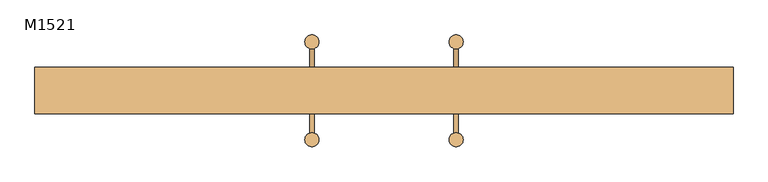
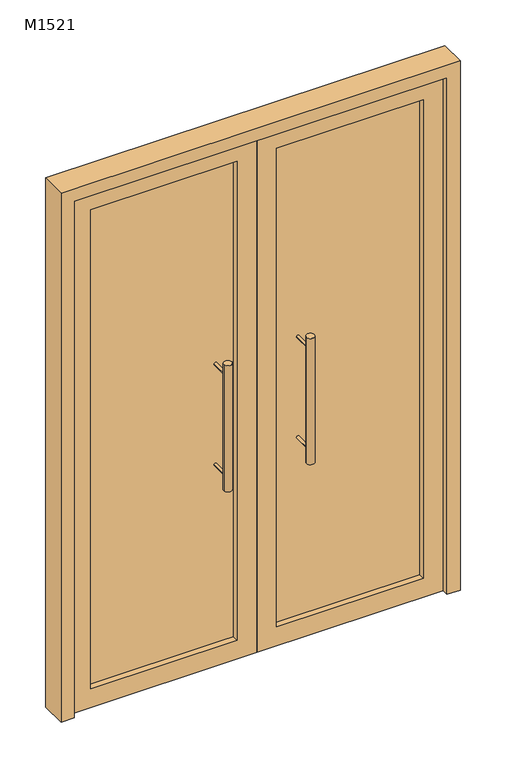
"""IFC4 building model written with IfcOpenShell, lengths in millimetres: door geometry, 双面嵌板玻璃门 : M1521."""

from ifc_helpers import new_model, si_unit, point, frame, frame_2d, origin, place, context, project, spatial, polyline, circle_curve, trimmed, segment, composite_curve, outline, extrude, source, transform, mapped, element, save


def m1521_b0fe12bd(model_context):
    return source(origin(), model_context, "Body", "SweptSolid", [
        extrude(outline(composite_curve([segment(trimmed(circle_curve(frame_2d((155.0, 105.0)), 15.0), [point((140.0, 105.0))], [point((170.0, 105.0))], False, "CARTESIAN"), True, "CONTINUOUS"), segment(trimmed(circle_curve(frame_2d((155.0, 105.0)), 15.0), [point((170.0, 105.0))], [point((140.0, 105.0))], False, "CARTESIAN"), True, "CONTINUOUS")], self_intersect=False)), frame((0.0, 0.0, 750.0), z_axis=(0.0, 0.0, 1.0), x_axis=(1.0, 0.0, 0.0)), (0.0, 0.0, 1.0), 500.0),
        extrude(outline(composite_curve([segment(trimmed(circle_curve(frame_2d((1200.0, 155.0)), 5.0), [point((1200.0, 150.0))], [point((1200.0, 160.0))], False, "CARTESIAN"), True, "CONTINUOUS"), segment(trimmed(circle_curve(frame_2d((1200.0, 155.0)), 5.0), [point((1200.0, 160.0))], [point((1200.0, 150.0))], False, "CARTESIAN"), True, "CONTINUOUS")], self_intersect=False)), frame((0.0, 25.0, 0.0), z_axis=(0.0, 1.0, 0.0), x_axis=(0.0, 0.0, 1.0)), (0.0, 0.0, 1.0), 80.0),
        extrude(outline(composite_curve([segment(trimmed(circle_curve(frame_2d((800.0, 155.0)), 5.0), [point((800.0, 150.0))], [point((800.0, 160.0))], False, "CARTESIAN"), True, "CONTINUOUS"), segment(trimmed(circle_curve(frame_2d((800.0, 155.0)), 5.0), [point((800.0, 160.0))], [point((800.0, 150.0))], False, "CARTESIAN"), True, "CONTINUOUS")], self_intersect=False)), frame((0.0, 25.0, 0.0), z_axis=(0.0, 1.0, 0.0), x_axis=(0.0, 0.0, 1.0)), (0.0, 0.0, 1.0), 80.0),
        extrude(outline(composite_curve([segment(trimmed(circle_curve(frame_2d((1200.0, 155.0)), 5.0), [point((1200.0, 150.0))], [point((1200.0, 160.0))], False, "CARTESIAN"), True, "CONTINUOUS"), segment(trimmed(circle_curve(frame_2d((1200.0, 155.0)), 5.0), [point((1200.0, 160.0))], [point((1200.0, 150.0))], False, "CARTESIAN"), True, "CONTINUOUS")], self_intersect=False)), frame((0.0, -105.0, 0.0), z_axis=(0.0, 1.0, 0.0), x_axis=(0.0, 0.0, 1.0)), (0.0, 0.0, 1.0), 80.0),
        extrude(outline(composite_curve([segment(trimmed(circle_curve(frame_2d((800.0, 155.0)), 5.0), [point((800.0, 150.0))], [point((800.0, 160.0))], False, "CARTESIAN"), True, "CONTINUOUS"), segment(trimmed(circle_curve(frame_2d((800.0, 155.0)), 5.0), [point((800.0, 160.0))], [point((800.0, 150.0))], False, "CARTESIAN"), True, "CONTINUOUS")], self_intersect=False)), frame((0.0, -105.0, 0.0), z_axis=(0.0, 1.0, 0.0), x_axis=(0.0, 0.0, 1.0)), (0.0, 0.0, 1.0), 80.0),
        extrude(outline(composite_curve([segment(trimmed(circle_curve(frame_2d((155.0, -105.0)), 15.0), [point((140.0, -105.0))], [point((170.0, -105.0))], False, "CARTESIAN"), True, "CONTINUOUS"), segment(trimmed(circle_curve(frame_2d((155.0, -105.0)), 15.0), [point((170.0, -105.0))], [point((140.0, -105.0))], False, "CARTESIAN"), True, "CONTINUOUS")], self_intersect=False)), frame((0.0, 0.0, 750.0), z_axis=(0.0, 0.0, 1.0), x_axis=(1.0, 0.0, 0.0)), (0.0, 0.0, 1.0), 500.0),
        extrude(outline(composite_curve([segment(trimmed(circle_curve(frame_2d((-155.0, 105.0)), 15.0), [point((-170.0, 105.0))], [point((-140.0, 105.0))], False, "CARTESIAN"), True, "CONTINUOUS"), segment(trimmed(circle_curve(frame_2d((-155.0, 105.0)), 15.0), [point((-140.0, 105.0))], [point((-170.0, 105.0))], False, "CARTESIAN"), True, "CONTINUOUS")], self_intersect=False)), frame((0.0, 0.0, 750.0), z_axis=(0.0, 0.0, 1.0), x_axis=(1.0, 0.0, 0.0)), (0.0, 0.0, 1.0), 500.0),
        extrude(outline(composite_curve([segment(trimmed(circle_curve(frame_2d((1200.0, -155.0)), 5.0), [point((1200.0, -160.0))], [point((1200.0, -150.0))], False, "CARTESIAN"), True, "CONTINUOUS"), segment(trimmed(circle_curve(frame_2d((1200.0, -155.0)), 5.0), [point((1200.0, -150.0))], [point((1200.0, -160.0))], False, "CARTESIAN"), True, "CONTINUOUS")], self_intersect=False)), frame((0.0, 25.0, 0.0), z_axis=(0.0, 1.0, 0.0), x_axis=(0.0, 0.0, 1.0)), (0.0, 0.0, 1.0), 80.0),
        extrude(outline(composite_curve([segment(trimmed(circle_curve(frame_2d((800.0, -155.0)), 5.0), [point((800.0, -160.0))], [point((800.0, -150.0))], False, "CARTESIAN"), True, "CONTINUOUS"), segment(trimmed(circle_curve(frame_2d((800.0, -155.0)), 5.0), [point((800.0, -150.0))], [point((800.0, -160.0))], False, "CARTESIAN"), True, "CONTINUOUS")], self_intersect=False)), frame((0.0, 25.0, 0.0), z_axis=(0.0, 1.0, 0.0), x_axis=(0.0, 0.0, 1.0)), (0.0, 0.0, 1.0), 80.0),
        extrude(outline(composite_curve([segment(trimmed(circle_curve(frame_2d((1200.0, -155.0)), 5.0), [point((1200.0, -160.0))], [point((1200.0, -150.0))], False, "CARTESIAN"), True, "CONTINUOUS"), segment(trimmed(circle_curve(frame_2d((1200.0, -155.0)), 5.0), [point((1200.0, -150.0))], [point((1200.0, -160.0))], False, "CARTESIAN"), True, "CONTINUOUS")], self_intersect=False)), frame((0.0, -105.0, 0.0), z_axis=(0.0, 1.0, 0.0), x_axis=(0.0, 0.0, 1.0)), (0.0, 0.0, 1.0), 80.0),
        extrude(outline(composite_curve([segment(trimmed(circle_curve(frame_2d((800.0, -155.0)), 5.0), [point((800.0, -160.0))], [point((800.0, -150.0))], False, "CARTESIAN"), True, "CONTINUOUS"), segment(trimmed(circle_curve(frame_2d((800.0, -155.0)), 5.0), [point((800.0, -150.0))], [point((800.0, -160.0))], False, "CARTESIAN"), True, "CONTINUOUS")], self_intersect=False)), frame((0.0, -105.0, 0.0), z_axis=(0.0, 1.0, 0.0), x_axis=(0.0, 0.0, 1.0)), (0.0, 0.0, 1.0), 80.0),
        extrude(outline(composite_curve([segment(trimmed(circle_curve(frame_2d((-155.0, -105.0)), 15.0), [point((-170.0, -105.0))], [point((-140.0, -105.0))], False, "CARTESIAN"), True, "CONTINUOUS"), segment(trimmed(circle_curve(frame_2d((-155.0, -105.0)), 15.0), [point((-140.0, -105.0))], [point((-170.0, -105.0))], False, "CARTESIAN"), True, "CONTINUOUS")], self_intersect=False)), frame((0.0, 0.0, 750.0), z_axis=(0.0, 0.0, 1.0), x_axis=(1.0, 0.0, 0.0)), (0.0, 0.0, 1.0), 500.0),
        extrude(outline(polyline([(75.0, 2.0), (625.0, 2.0), (625.0, -2.0), (75.0, -2.0), (75.0, 2.0)])), frame((0.0, 0.0, 75.0), z_axis=(0.0, 0.0, 1.0), x_axis=(1.0, 0.0, 0.0)), (0.0, 0.0, 1.0), 1900.0),
        extrude(outline(polyline([(-625.0, 2.0), (-75.0, 2.0), (-75.0, -2.0), (-625.0, -2.0), (-625.0, 2.0)])), frame((0.0, 0.0, 75.0), z_axis=(0.0, 0.0, 1.0), x_axis=(1.0, 0.0, 0.0)), (0.0, 0.0, 1.0), 1900.0),
        extrude(outline(polyline([(2050.0, 0.0), (2050.0, -700.0), (0.0, -700.0), (0.0, 0.0), (2050.0, 0.0)]), holes=[polyline([(1975.0, -625.0), (1975.0, -75.0), (75.0, -75.0), (75.0, -625.0), (1975.0, -625.0)])]), frame((0.0, -25.0, 0.0), z_axis=(0.0, 1.0, 0.0), x_axis=(0.0, 0.0, 1.0)), (0.0, 0.0, 1.0), 50.0),
        extrude(outline(polyline([(2050.0, 0.0), (0.0, 0.0), (0.0, 700.0), (2050.0, 700.0), (2050.0, 0.0)]), holes=[polyline([(1975.0, 625.0), (75.0, 625.0), (75.0, 75.0), (1975.0, 75.0), (1975.0, 625.0)])]), frame((0.0, -25.0, 0.0), z_axis=(0.0, 1.0, 0.0), x_axis=(0.0, 0.0, 1.0)), (0.0, 0.0, 1.0), 50.0),
        extrude(outline(polyline([(2100.0, 750.0), (2100.0, -750.0), (0.0, -750.0), (0.0, -700.0), (2050.0, -700.0), (2050.0, 700.0), (0.0, 700.0), (0.0, 750.0), (2100.0, 750.0)])), frame((0.0, -50.0, 0.0), z_axis=(0.0, 1.0, 0.0), x_axis=(0.0, 0.0, 1.0)), (0.0, 0.0, 1.0), 100.0),
    ])


if __name__ == "__main__":
    model = new_model("IFC4")
    model_context = context("Model", 3, world=origin())
    ifc_project = project(units=[si_unit("LENGTHUNIT", "METRE", prefix="MILLI")], contexts=[model_context])
    site = spatial("IfcSite", under=ifc_project)
    building = spatial("IfcBuilding", under=site)
    placement = place(None, origin())
    m1521_shape = m1521_b0fe12bd(model_context)
    element("IfcDoor", 1, ObjectType="双面嵌板玻璃门 : M1521", at=placement, inside=building, context=model_context, shape_type="MappedRepresentation", body=[
        mapped(m1521_shape, transform((0.0, 0.0, 0.0), x_axis=(1.0, 0.0, 0.0), y_axis=(0.0, 1.0, 0.0), z_axis=(0.0, 0.0, 1.0))),
    ])
    save(model, "model.ifc")
